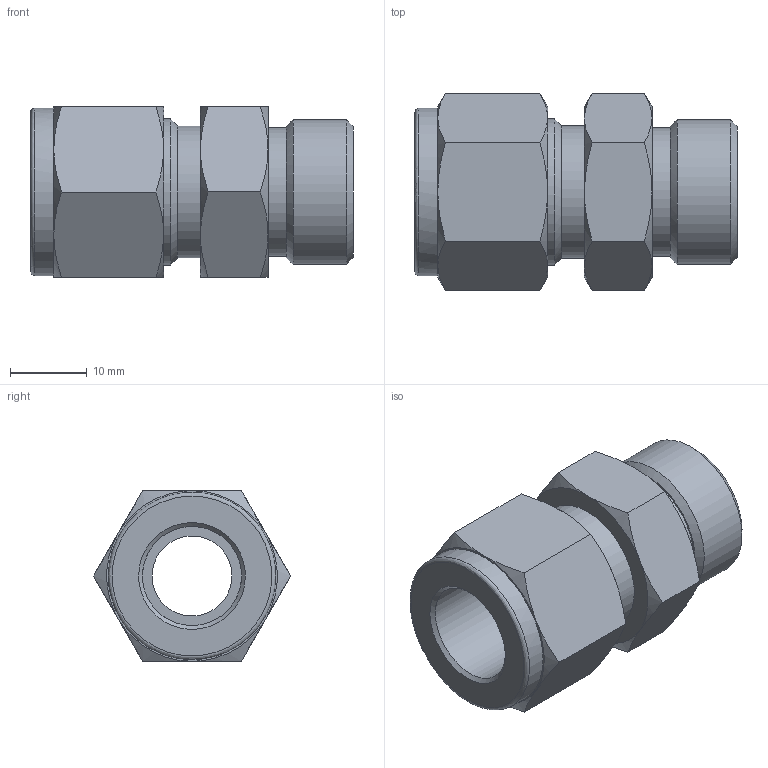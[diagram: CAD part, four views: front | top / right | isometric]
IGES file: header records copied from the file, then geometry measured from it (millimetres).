
Global section: file name: SSMC-8-8U; native system: Autodesk Inventor 2016; preprocessor: unknown; author: DESIGNPC2; date: 20160123.143417; units: millimetre
Bounding box: 42 x 25.67 x 22.23 mm (x, y, z)
Volume: 10423.9 mm3; surface area: 5439.1 mm2
Topology: 1 solids, 1 shells, 59 faces, 152 edges, 103 vertices
Faces by surface type: bspline 59
